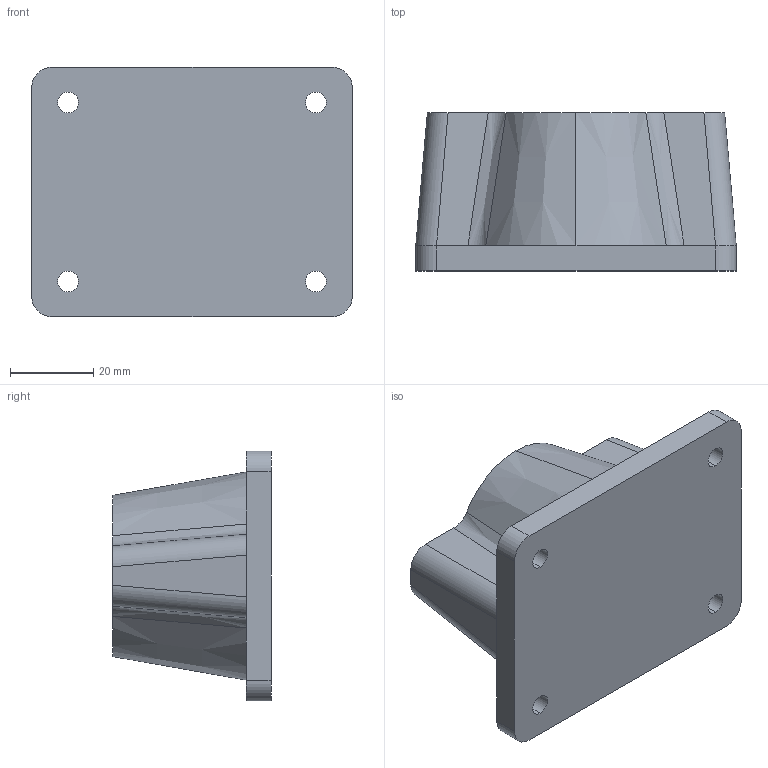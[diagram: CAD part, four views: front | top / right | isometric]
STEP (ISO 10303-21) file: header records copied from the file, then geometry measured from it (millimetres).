
FILE_DESCRIPTION (( 'STEP AP203' ), '1' );
FILE_NAME ('105928.STEP', '2016-02-15T07:32:18', ( '' ), ( '' ), 'SwSTEP 2.0', 'SolidWorks 2016', '' );
FILE_SCHEMA (( 'CONFIG_CONTROL_DESIGN' ));
Length unit declared in the file: millimetre
Products named in the file (1): 105928
Bounding box: 77 x 38 x 60 mm (x, y, z)
Volume: 93325.3 mm3; surface area: 16411.2 mm2
Topology: 1 solids, 1 shells, 37 faces, 101 edges, 66 vertices
Faces by surface type: cylinder 16, plane 14, bspline 4, cone 3
Entity records: 1394 total; most frequent: CARTESIAN_POINT 405, ORIENTED_EDGE 202, DIRECTION 175, EDGE_CURVE 101, VERTEX_POINT 66, AXIS2_PLACEMENT_3D 64, VECTOR 47, LINE 47
